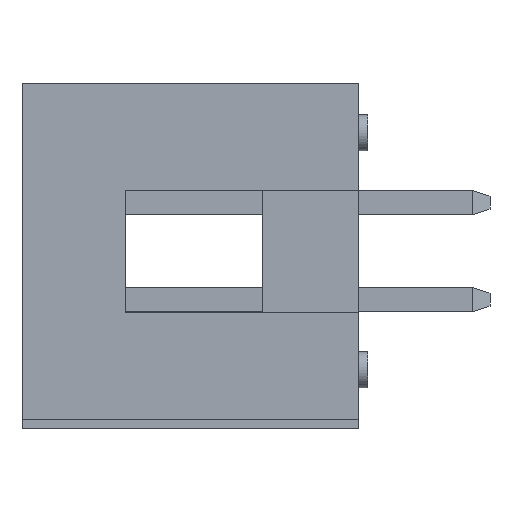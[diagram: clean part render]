
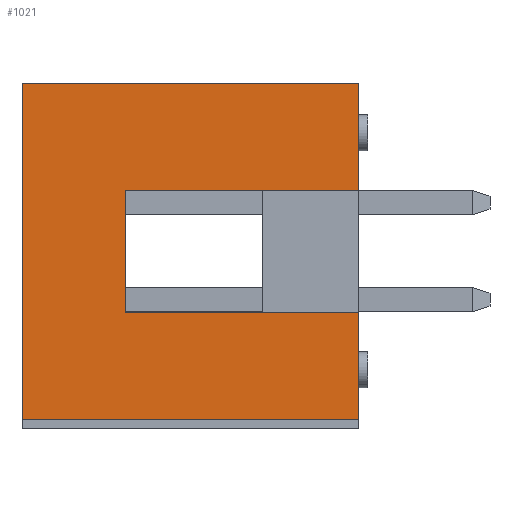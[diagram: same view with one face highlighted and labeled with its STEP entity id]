
A CAD part, left-side view. The second image highlights one B-rep face of the part: STEP entity #1021.
In plain terms, the highlighted planar face has unit normal (-1, 0, 0).
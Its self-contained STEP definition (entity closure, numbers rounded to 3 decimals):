
#36 = VECTOR ( 'NONE', #660, 1000. ) ;
#92 = CARTESIAN_POINT ( 'NONE',  ( -10.15, 4.4, 0. ) ) ;
#359 = LINE ( 'NONE', #1816, #3058 ) ;
#427 = CARTESIAN_POINT ( 'NONE',  ( -10.15, 1.7, 6. ) ) ;
#438 = VECTOR ( 'NONE', #2720, 1000. ) ;
#467 = VECTOR ( 'NONE', #4437, 1000. ) ;
#490 = VERTEX_POINT ( 'NONE', #92 ) ;
#524 = ORIENTED_EDGE ( 'NONE', *, *, #1958, .T. ) ;
#525 = PLANE ( 'NONE',  #2196 ) ;
#552 = VERTEX_POINT ( 'NONE', #3892 ) ;
#596 = VECTOR ( 'NONE', #2254, 1000. ) ;
#634 = CARTESIAN_POINT ( 'NONE',  ( -10.15, -4.4, 2.8 ) ) ;
#660 = DIRECTION ( 'NONE',  ( 0., 0., -1. ) ) ;
#761 = ORIENTED_EDGE ( 'NONE', *, *, #3653, .F. ) ;
#836 = VERTEX_POINT ( 'NONE', #427 ) ;
#1021 = ADVANCED_FACE ( 'NONE', ( #4273 ), #525, .F. ) ;
#1025 = CARTESIAN_POINT ( 'NONE',  ( -10.15, 1.7, 4.4 ) ) ;
#1048 = ORIENTED_EDGE ( 'NONE', *, *, #3924, .F. ) ;
#1072 = CARTESIAN_POINT ( 'NONE',  ( -10.15, 0., 6. ) ) ;
#1112 = DIRECTION ( 'NONE',  ( 0., -1., 0. ) ) ;
#1150 = LINE ( 'NONE', #1942, #596 ) ;
#1335 = EDGE_CURVE ( 'NONE', #3418, #490, #1695, .T. ) ;
#1427 = DIRECTION ( 'NONE',  ( 0., 0., 1. ) ) ;
#1476 = ORIENTED_EDGE ( 'NONE', *, *, #2459, .T. ) ;
#1606 = ORIENTED_EDGE ( 'NONE', *, *, #1950, .F. ) ;
#1695 = LINE ( 'NONE', #3199, #438 ) ;
#1784 = VECTOR ( 'NONE', #4017, 1000. ) ;
#1809 = CARTESIAN_POINT ( 'NONE',  ( -10.15, 0., 8.8 ) ) ;
#1816 = CARTESIAN_POINT ( 'NONE',  ( -10.15, 0., 2.8 ) ) ;
#1942 = CARTESIAN_POINT ( 'NONE',  ( -10.15, -4.4, 4.275 ) ) ;
#1950 = EDGE_CURVE ( 'NONE', #3754, #4706, #359, .T. ) ;
#1958 = EDGE_CURVE ( 'NONE', #4236, #552, #3325, .T. ) ;
#1994 = VERTEX_POINT ( 'NONE', #2167 ) ;
#2167 = CARTESIAN_POINT ( 'NONE',  ( -10.15, 4.4, 8.8 ) ) ;
#2196 = AXIS2_PLACEMENT_3D ( 'NONE', #4250, #4565, #3885 ) ;
#2254 = DIRECTION ( 'NONE',  ( 0., 0., 1. ) ) ;
#2447 = CARTESIAN_POINT ( 'NONE',  ( -10.15, -4.4, 0. ) ) ;
#2459 = EDGE_CURVE ( 'NONE', #3418, #4706, #1150, .T. ) ;
#2687 = EDGE_LOOP ( 'NONE', ( #761, #524, #4639, #2947, #3194, #1476, #1606, #1048 ) ) ;
#2720 = DIRECTION ( 'NONE',  ( 0., 1., 0. ) ) ;
#2947 = ORIENTED_EDGE ( 'NONE', *, *, #3323, .F. ) ;
#2960 = CARTESIAN_POINT ( 'NONE',  ( -10.15, 4.4, 4.4 ) ) ;
#3058 = VECTOR ( 'NONE', #1112, 1000. ) ;
#3132 = VECTOR ( 'NONE', #3271, 1000. ) ;
#3194 = ORIENTED_EDGE ( 'NONE', *, *, #1335, .F. ) ;
#3199 = CARTESIAN_POINT ( 'NONE',  ( -10.15, 0., 0. ) ) ;
#3271 = DIRECTION ( 'NONE',  ( 0., -1., 0. ) ) ;
#3323 = EDGE_CURVE ( 'NONE', #490, #1994, #4174, .T. ) ;
#3325 = LINE ( 'NONE', #4060, #3443 ) ;
#3418 = VERTEX_POINT ( 'NONE', #2447 ) ;
#3443 = VECTOR ( 'NONE', #1427, 1000. ) ;
#3558 = CARTESIAN_POINT ( 'NONE',  ( -10.15, -4.4, 6. ) ) ;
#3653 = EDGE_CURVE ( 'NONE', #4236, #836, #4387, .T. ) ;
#3692 = LINE ( 'NONE', #1809, #3132 ) ;
#3754 = VERTEX_POINT ( 'NONE', #4168 ) ;
#3885 = DIRECTION ( 'NONE',  ( 0., 1., 0. ) ) ;
#3892 = CARTESIAN_POINT ( 'NONE',  ( -10.15, -4.4, 8.8 ) ) ;
#3924 = EDGE_CURVE ( 'NONE', #836, #3754, #4339, .T. ) ;
#4017 = DIRECTION ( 'NONE',  ( 0., 1., 0. ) ) ;
#4060 = CARTESIAN_POINT ( 'NONE',  ( -10.15, -4.4, 4.275 ) ) ;
#4168 = CARTESIAN_POINT ( 'NONE',  ( -10.15, 1.7, 2.8 ) ) ;
#4174 = LINE ( 'NONE', #2960, #467 ) ;
#4236 = VERTEX_POINT ( 'NONE', #3558 ) ;
#4250 = CARTESIAN_POINT ( 'NONE',  ( -10.15, -4.4, 0. ) ) ;
#4273 = FACE_OUTER_BOUND ( 'NONE', #2687, .T. ) ;
#4339 = LINE ( 'NONE', #1025, #36 ) ;
#4387 = LINE ( 'NONE', #1072, #1784 ) ;
#4436 = EDGE_CURVE ( 'NONE', #1994, #552, #3692, .T. ) ;
#4437 = DIRECTION ( 'NONE',  ( 0., 0., 1. ) ) ;
#4565 = DIRECTION ( 'NONE',  ( 1., 0., 0. ) ) ;
#4639 = ORIENTED_EDGE ( 'NONE', *, *, #4436, .F. ) ;
#4706 = VERTEX_POINT ( 'NONE', #634 ) ;
